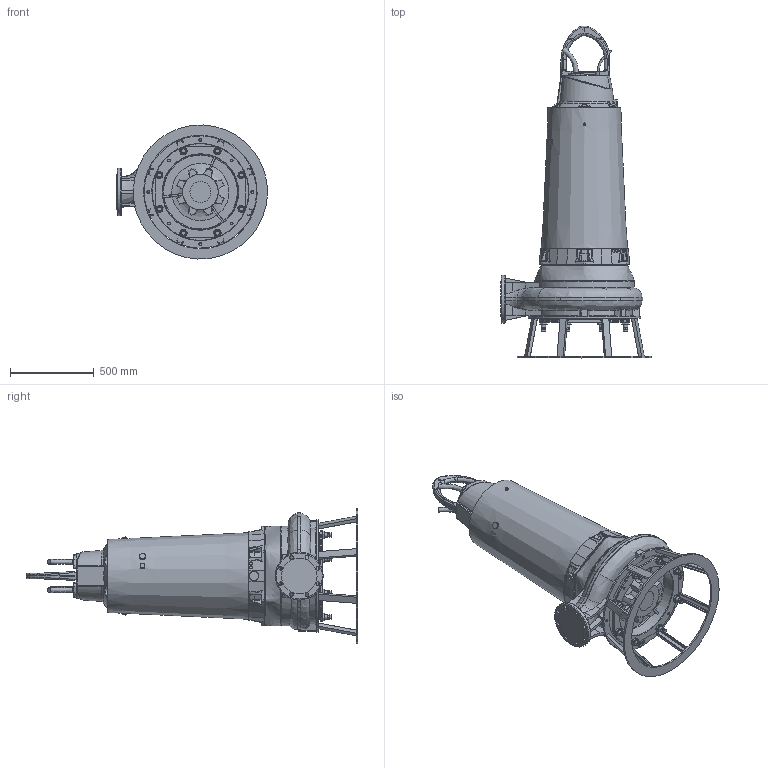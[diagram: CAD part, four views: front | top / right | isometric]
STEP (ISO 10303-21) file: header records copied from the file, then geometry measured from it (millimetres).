
FILE_DESCRIPTION (( 'STEP AP203' ), '1' );
FILE_NAME ('PE5_XFP151M-CB2_WET T_A_NG2.STEP', '2020-03-26T11:14:13', ( '' ), ( '' ), 'SwSTEP 2.0', 'SolidWorks 2017', '' );
FILE_SCHEMA (( 'CONFIG_CONTROL_DESIGN' ));
Length unit declared in the file: metre
Products named in the file (2): PE5_XFP151M-CB2_WET T_A_NG2
Bounding box: 899.62 x 1978.97 x 799.24 mm (x, y, z)
Volume: 286237476.6 mm3; surface area: 5177403.3 mm2
Topology: 4 solids, 20 shells, 1990 faces, 5015 edges, 3127 vertices
Faces by surface type: plane 784, cylinder 425, bspline 372, cone 294, torus 95, sphere 20
Full cylindrical faces by diameter (mm): 10.2 x2, 11 x6, 11.5 x1, 14 x18, 16 x8, 17 x8, 17.5 x2, 18 x4, 19 x5, 22 x10, 27 x16, 27.5 x2, 36 x1, 40 x8, 56 x2, 125 x1, 212 x2, 483.6 x1, 484 x2, 492 x2, 500 x1, 580 x1, 589 x1, 595 x2, 670 x1, 677 x1, 800 x1
Entity records: 147319 total; most frequent: CARTESIAN_POINT 105054, ORIENTED_EDGE 9310, DIRECTION 7618, EDGE_CURVE 4655, AXIS2_PLACEMENT_3D 3009, VERTEX_POINT 2994, EDGE_LOOP 2367, FACE_OUTER_BOUND 2122
